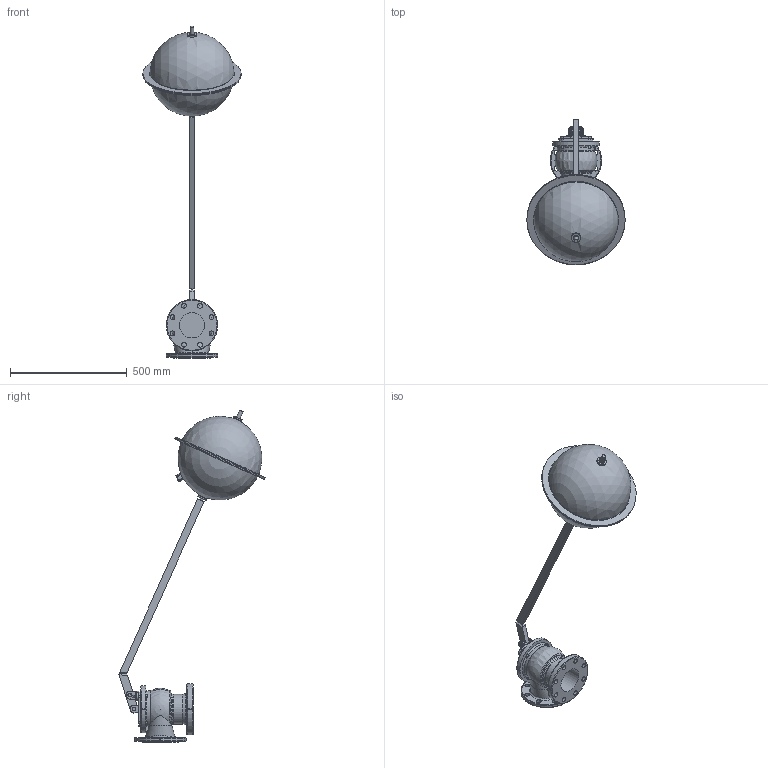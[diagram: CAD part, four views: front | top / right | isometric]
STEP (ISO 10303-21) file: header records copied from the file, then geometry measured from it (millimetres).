
FILE_DESCRIPTION (( 'STEP AP203' ), '1' );
FILE_NAME ('O_854_00_DN100_BALL FLOAT VALVE_AA0_step.step', '2016-09-20T07:33:37', ( 'Windows User' ), ( 'AVK' ), 'SwSTEP 2.0', 'SolidWorks 2012', '' );
FILE_SCHEMA (( 'CONFIG_CONTROL_DESIGN' ));
Length unit declared in the file: millimetre
Products named in the file (1): O_854_00_DN100_BALL FLOAT VALVE_AA0_step
Bounding box: 420 x 625.37 x 1419.73 mm (x, y, z)
Volume: 30618323.3 mm3; surface area: 972348 mm2
Topology: 1 solids, 1 shells, 347 faces, 862 edges, 543 vertices
Faces by surface type: plane 137, cylinder 125, bspline 32, torus 31, sphere 15, cone 7
Full cylindrical faces by diameter (mm): 16 x10, 20.5 x16, 21 x1, 25 x2, 30 x1, 40 x2, 108 x1, 128 x1, 156 x1, 420 x2
Entity records: 14635 total; most frequent: CARTESIAN_POINT 6891, DIRECTION 1580, ORIENTED_EDGE 1538, EDGE_CURVE 769, AXIS2_PLACEMENT_3D 637, VERTEX_POINT 512, EDGE_LOOP 473, FACE_OUTER_BOUND 400
